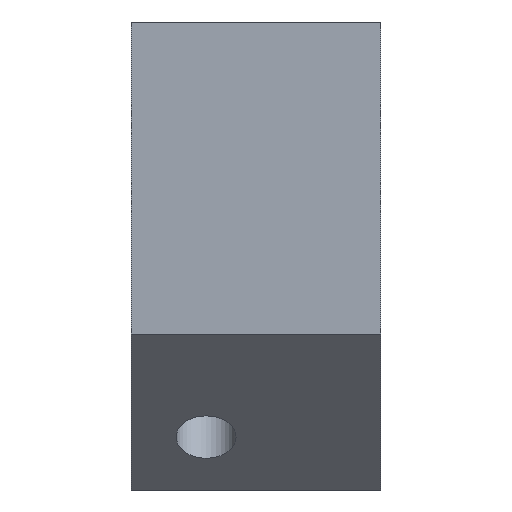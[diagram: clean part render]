
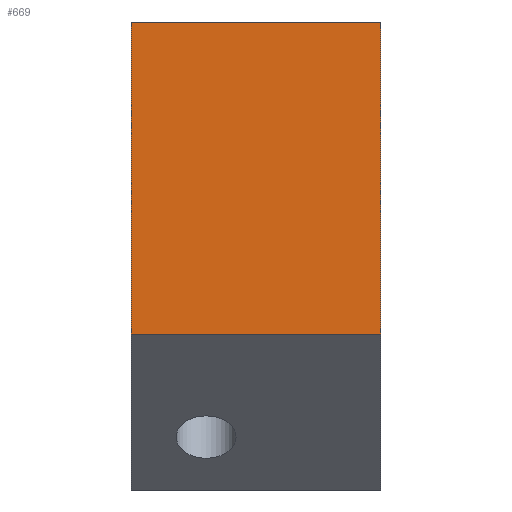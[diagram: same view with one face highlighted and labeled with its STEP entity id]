
A CAD part, front view. The second image highlights one B-rep face of the part: STEP entity #669.
In plain terms, the highlighted planar face has unit normal (0, -1, 0).
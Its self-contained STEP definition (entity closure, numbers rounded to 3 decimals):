
#42=FACE_OUTER_BOUND('',#76,.T.);
#76=EDGE_LOOP('',(#533,#534,#535,#536));
#94=LINE('',#893,#185);
#153=LINE('',#1011,#244);
#157=LINE('',#1019,#248);
#158=LINE('',#1020,#249);
#185=VECTOR('',#726,10.);
#244=VECTOR('',#825,10.);
#248=VECTOR('',#831,10.);
#249=VECTOR('',#832,10.);
#276=VERTEX_POINT('',#890);
#277=VERTEX_POINT('',#892);
#316=VERTEX_POINT('',#1010);
#319=VERTEX_POINT('',#1018);
#338=EDGE_CURVE('',#277,#276,#94,.T.);
#397=EDGE_CURVE('',#316,#277,#153,.T.);
#401=EDGE_CURVE('',#276,#319,#157,.T.);
#402=EDGE_CURVE('',#316,#319,#158,.T.);
#533=ORIENTED_EDGE('',*,*,#401,.T.);
#534=ORIENTED_EDGE('',*,*,#402,.F.);
#535=ORIENTED_EDGE('',*,*,#397,.T.);
#536=ORIENTED_EDGE('',*,*,#338,.T.);
#636=PLANE('',#705);
#669=ADVANCED_FACE('',(#42),#636,.T.);
#705=AXIS2_PLACEMENT_3D('',#1017,#829,#830);
#726=DIRECTION('',(-1.,0.,0.));
#825=DIRECTION('',(0.,0.,1.));
#829=DIRECTION('center_axis',(0.,-1.,0.));
#830=DIRECTION('ref_axis',(0.,0.,-1.));
#831=DIRECTION('',(0.,0.,-1.));
#832=DIRECTION('',(-1.,0.,0.));
#890=CARTESIAN_POINT('',(-5.,0.,12.5));
#892=CARTESIAN_POINT('',(5.,0.,12.5));
#893=CARTESIAN_POINT('',(-2.5,0.,12.5));
#1010=CARTESIAN_POINT('',(5.,0.,0.));
#1011=CARTESIAN_POINT('',(5.,0.,9.75));
#1017=CARTESIAN_POINT('Origin',(0.,0.,5.));
#1018=CARTESIAN_POINT('',(-5.,0.,0.));
#1019=CARTESIAN_POINT('',(-5.,0.,2.5));
#1020=CARTESIAN_POINT('',(-2.25,0.,0.));
